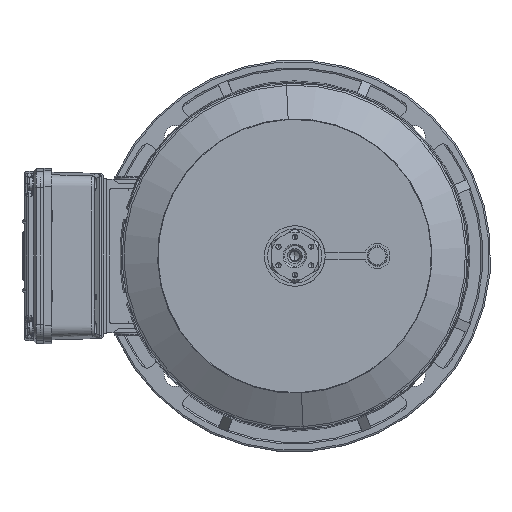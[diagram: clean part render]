
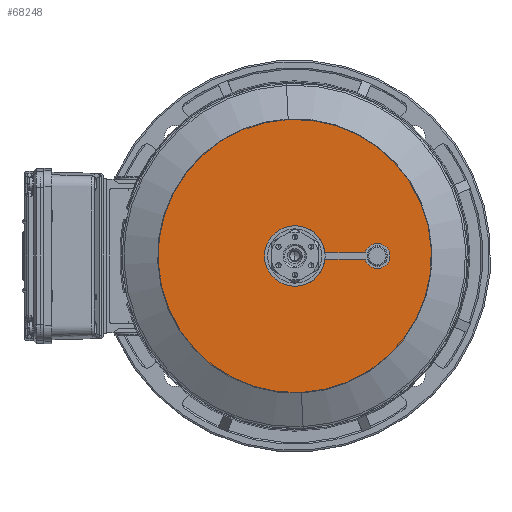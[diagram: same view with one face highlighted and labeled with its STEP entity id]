
A CAD part, left-side view. The second image highlights one B-rep face of the part: STEP entity #68248.
In plain terms, the highlighted planar face has unit normal (-1, 0, 0) as drawn and (0, -1, 0) by its records, which use the part's own axes.
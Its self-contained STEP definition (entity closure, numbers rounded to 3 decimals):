
#2838 = DIRECTION ( 'NONE',  ( 0., 0., 1. ) ) ;
#11665 = ORIENTED_EDGE ( 'NONE', *, *, #116666, .T. ) ;
#12298 = AXIS2_PLACEMENT_3D ( 'NONE', #72695, #17215, #81987 ) ;
#14619 = CIRCLE ( 'NONE', #49873, 87.5 ) ;
#15175 = ORIENTED_EDGE ( 'NONE', *, *, #114939, .T. ) ;
#15612 = ORIENTED_EDGE ( 'NONE', *, *, #29977, .F. ) ;
#17215 = DIRECTION ( 'NONE',  ( 0., 1., 0. ) ) ;
#17318 = DIRECTION ( 'NONE',  ( 0., -1., 0. ) ) ;
#17931 = EDGE_LOOP ( 'NONE', ( #15175, #11665 ) ) ;
#22958 = CARTESIAN_POINT ( 'NONE',  ( 0., 0., 0. ) ) ;
#29977 = EDGE_CURVE ( 'NONE', #116177, #111932, #56064, .T. ) ;
#32220 = CARTESIAN_POINT ( 'NONE',  ( 0., 0., -87.5 ) ) ;
#32226 = DIRECTION ( 'NONE',  ( 0., 0., 1. ) ) ;
#33825 = EDGE_CURVE ( 'NONE', #111932, #116177, #14619, .T. ) ;
#38739 = FACE_OUTER_BOUND ( 'NONE', #114044, .T. ) ;
#43636 = CIRCLE ( 'NONE', #58369, 13.5 ) ;
#48403 = AXIS2_PLACEMENT_3D ( 'NONE', #104188, #48726, #113552 ) ;
#48726 = DIRECTION ( 'NONE',  ( 0., 1., 0. ) ) ;
#49138 = CIRCLE ( 'NONE', #48403, 13.5 ) ;
#49241 = CARTESIAN_POINT ( 'NONE',  ( 0., 0., 87.5 ) ) ;
#49873 = AXIS2_PLACEMENT_3D ( 'NONE', #22958, #87678, #32226 ) ;
#54183 = CARTESIAN_POINT ( 'NONE',  ( -87.5, 0., 0. ) ) ;
#54884 = CARTESIAN_POINT ( 'NONE',  ( 0., 0., -13.5 ) ) ;
#56064 = CIRCLE ( 'NONE', #12298, 87.5 ) ;
#58299 = DIRECTION ( 'NONE',  ( 0., 1., 0. ) ) ;
#58369 = AXIS2_PLACEMENT_3D ( 'NONE', #113801, #58299, #2838 ) ;
#67602 = VERTEX_POINT ( 'NONE', #54884 ) ;
#68248 = ADVANCED_FACE ( 'NONE', ( #87951, #38739 ), #72794, .T. ) ;
#72695 = CARTESIAN_POINT ( 'NONE',  ( 0., 0., 0. ) ) ;
#72794 = PLANE ( 'NONE',  #94930 ) ;
#79710 = VERTEX_POINT ( 'NONE', #79855 ) ;
#79855 = CARTESIAN_POINT ( 'NONE',  ( 0., 0., 13.5 ) ) ;
#81987 = DIRECTION ( 'NONE',  ( 0., 0., 1. ) ) ;
#82096 = DIRECTION ( 'NONE',  ( 0., 0., -1. ) ) ;
#87678 = DIRECTION ( 'NONE',  ( 0., 1., 0. ) ) ;
#87951 = FACE_BOUND ( 'NONE', #17931, .T. ) ;
#94930 = AXIS2_PLACEMENT_3D ( 'NONE', #54183, #17318, #82096 ) ;
#104188 = CARTESIAN_POINT ( 'NONE',  ( 0., 0., 0. ) ) ;
#111932 = VERTEX_POINT ( 'NONE', #49241 ) ;
#112554 = ORIENTED_EDGE ( 'NONE', *, *, #33825, .F. ) ;
#113552 = DIRECTION ( 'NONE',  ( 0., 0., 1. ) ) ;
#113801 = CARTESIAN_POINT ( 'NONE',  ( 0., 0., 0. ) ) ;
#114044 = EDGE_LOOP ( 'NONE', ( #112554, #15612 ) ) ;
#114939 = EDGE_CURVE ( 'NONE', #79710, #67602, #43636, .T. ) ;
#116177 = VERTEX_POINT ( 'NONE', #32220 ) ;
#116666 = EDGE_CURVE ( 'NONE', #67602, #79710, #49138, .T. ) ;
